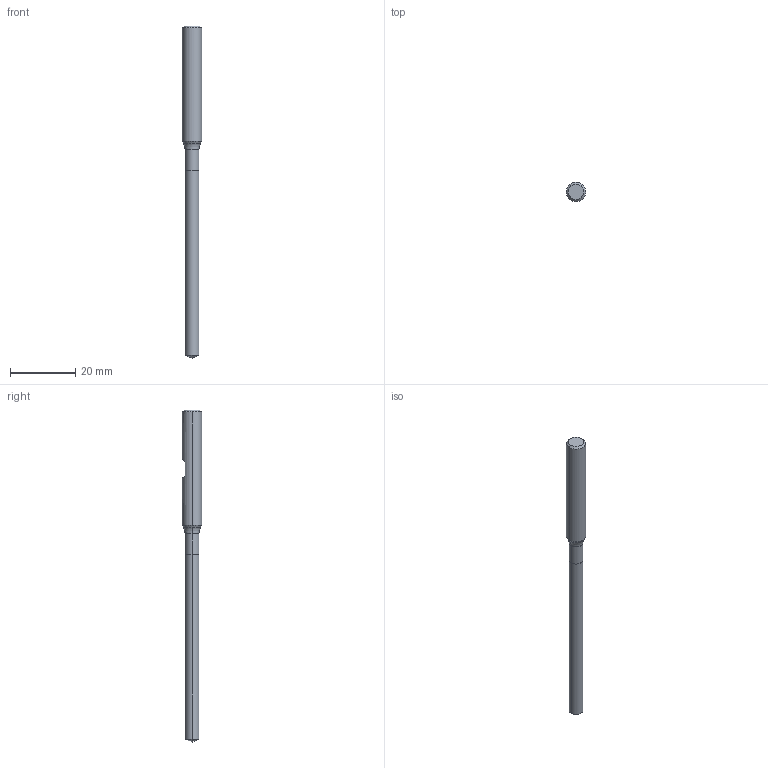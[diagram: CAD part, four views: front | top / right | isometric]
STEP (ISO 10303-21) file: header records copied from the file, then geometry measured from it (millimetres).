
FILE_DESCRIPTION (( 'STEP AP214' ), '1' );
FILE_NAME ('710.043.10_3D-model.step', '2022-02-22T17:19:03', ( '' ), ( '' ), 'SwSTEP 2.0', 'SolidWorks 2020', '' );
FILE_SCHEMA (( 'AUTOMOTIVE_DESIGN' ));
Length unit declared in the file: millimetre
Products named in the file (3): 710.043.10_3D-model; NOCUT-3D^Baugr88; CUT-3D^Baugr88
Assembly tree (2 placements, depth 2):
  710.043.10_3D-model
    CUT-3D^Baugr88
    NOCUT-3D^Baugr88
Bounding box: 6 x 6 x 102 mm (x, y, z)
Volume: 1954.9 mm3; surface area: 1628.5 mm2
Topology: 2 solids, 2 shells, 20 faces, 38 edges, 21 vertices
Faces by surface type: cone 6, cylinder 6, plane 6, torus 2
Entity records: 608 total; most frequent: DIRECTION 108, CARTESIAN_POINT 91, ORIENTED_EDGE 72, AXIS2_PLACEMENT_3D 46, EDGE_CURVE 36, EDGE_LOOP 21, VERTEX_POINT 21, FACE_OUTER_BOUND 20
